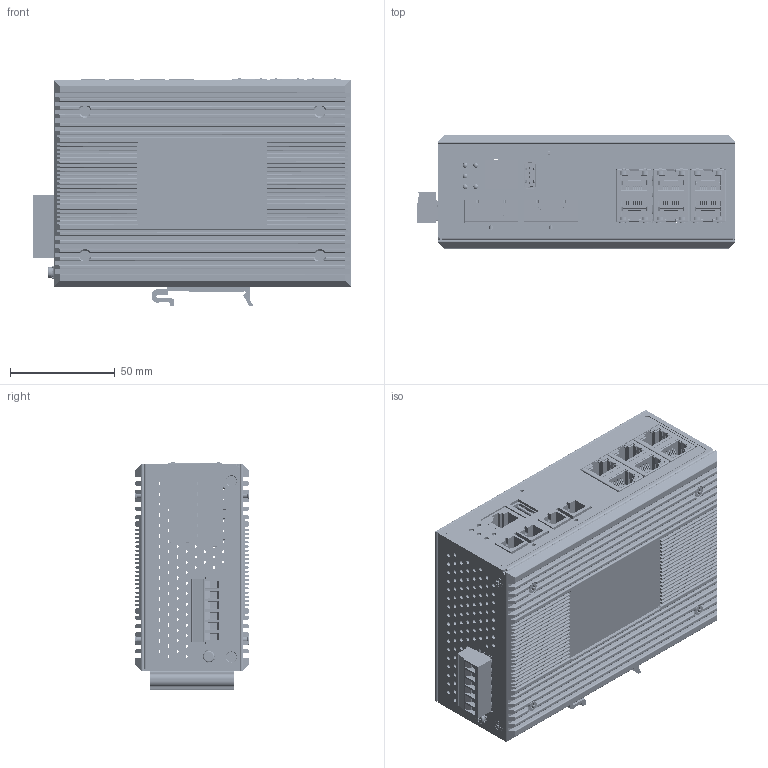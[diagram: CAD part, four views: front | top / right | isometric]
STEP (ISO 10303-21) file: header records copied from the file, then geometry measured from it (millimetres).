
FILE_DESCRIPTION((''),'2;1');
FILE_NAME('ET5-0802-M_ASM','2018-10-29T',('Chialu Chang'),(''),'PRO/ENGINEER BY PARAMETRIC TECHNOLOGY CORPORATION, 2009440','PRO/ENGINEER BY PARAMETRIC TECHNOLOGY CORPORATION, 2009440','');
FILE_SCHEMA(('CONFIG_CONTROL_DESIGN'));
Products named in the file (51): BOTTOM_CASE_PG5-0802-M_5; RM1-P160_1_ANY_1; RN1-P110_A_TYPE_RNX__ANY_1; RN1-P130_A_TYPE_RNX__1_ANY_1; ___J2-2961_1; ___J1-4212_1; RM1-C130-SW_3_2-___S_ANY_ASM_1_ASM; RU1-C130_RNX_1_ANY_1; RU1-C120_RNX_1_ANY_1; ___J2-361877_1; ___J1-362704_1; RM1-C131-SW_3_2-___S_ANY_ASM_1_ASM; RMX-P110_RM2_ANY_1; RM1-C120_SHORT____S_1_ANY_1; RM1-C120_LONG____S_1_ANY_1; _K_I__Q__ANY_1; RN2-S120_D_TYPE_RELAY-1G__ANY_1; RM1-C220____T_U_____P___A_1_ANY; RM1-C210____T_P___A_1_ANY_1; RM1-P110-LAST_1_ANY_1; RN2-S110_TOP_ONLY_ANY_1; 11264112222402_RN2H1X90-12PIN_A_ASM; EMSTBA_2_5-6-G-168220_1; EMSTBA_2_5-6-G-173270_ASM_1_ASM; 1899883_01_ASM_1_ASM; AVAGO_SC-FIBER_2; LED_GREEN_SMD_3; PG5-0802-SFP_SWITCH-BOARD_ASM_6_ASM; 3PCS_LED_ANY_1; 6100V80000_ANY_1; PRT0039_1; _T_W___TSC_-3B___W___ANY_1; ___L_TST-3B__BENDING_ANY_1; ___Y_TSB_-3B__WITH_PILOT___FIX_; ___L___Y_TSB_-3B__BENDING_ANY_A_ASM; _____MTSP-3B___W___ANY_1; ________W___ANY_1; 1188E_ANY_ASM_1_ASM; BOOST_PCB_PG5-0802-SFP_ASM_2_ASM; STENT_PG6-1202-10G-SFP_ANY_1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
Assembly tree (101 placements, depth 5):
  ET5-0802-M_ASM
    BOTTOM_CASE_PG5-0802-M_5
    PG5-0802-SFP_SWITCH-BOARD_ASM_6_ASM
      11264112222402_RN2H1X90-12PIN_A_ASM  x3
        RM1-P160_1_ANY_1
        RN1-P110_A_TYPE_RNX__ANY_1
        RN1-P130_A_TYPE_RNX__1_ANY_1
        RM1-C130-SW_3_2-___S_ANY_ASM_1_ASM
          ___J2-2961_1
          ___J1-4212_1
        RU1-C130_RNX_1_ANY_1
        RU1-C120_RNX_1_ANY_1
        RM1-C131-SW_3_2-___S_ANY_ASM_1_ASM
          ___J2-361877_1
          ___J1-362704_1
        RMX-P110_RM2_ANY_1
        RM1-C120_SHORT____S_1_ANY_1
        RM1-C120_LONG____S_1_ANY_1
        _K_I__Q__ANY_1
        RN2-S120_D_TYPE_RELAY-1G__ANY_1
        RM1-C220____T_U_____P___A_1_ANY
        RM1-C210____T_P___A_1_ANY_1
        RM1-P110-LAST_1_ANY_1
        RN2-S110_TOP_ONLY_ANY_1
      1899883_01_ASM_1_ASM
        EMSTBA_2_5-6-G-173270_ASM_1_ASM
          EMSTBA_2_5-6-G-168220_1
      AVAGO_SC-FIBER_2  x2
      LED_GREEN_SMD_3  x2
    BOOST_PCB_PG5-0802-SFP_ASM_2_ASM
      3PCS_LED_ANY_1  x2
      6100V80000_ANY_1
      PRT0039_1
      1188E_ANY_ASM_1_ASM
        _T_W___TSC_-3B___W___ANY_1
        ___L___Y_TSB_-3B__BENDING_ANY_A_ASM
          ___L_TST-3B__BENDING_ANY_1
          ___Y_TSB_-3B__WITH_PILOT___FIX_
        _____MTSP-3B___W___ANY_1
        ________W___ANY_1
    STENT_PG6-1202-10G-SFP_ANY_1
    PG5-1202-SFP_TOP-CASE_1
    LEONTON_FIN_BOTTOM_PG6-1202-10G
    LEONTON_FIN_TOP_PG6-1202-10G-SF
    M3_SCREW_FOR_GRN_1604_ANY_1
    SCREW_M3X4_F_1  x18
    DIN_RAIL_40_PG6-1202-10G-SFP_AN
    1754520_03_ASM_1_ASM
      MSTB_2_5-6-ST-133100_ASM_1_ASM
        MSTB_2_5-6-ST-129030_1
    MYLAR_PG5-1202-SFP_4
Bounding box: 151.91 x 54 x 108.46 mm (x, y, z)
Volume: 169073.1 mm3; surface area: 256838.1 mm2
Topology: 199 solids, 202 shells, 16016 faces, 44354 edges, 28675 vertices
Faces by surface type: plane 11534, cylinder 3577, torus 332, bspline 180, sphere 172, cone 167, revolution 48, extrusion 6
Entity records: 229646 total; most frequent: CARTESIAN_POINT 49358, ORIENTED_EDGE 38008, DIRECTION 36438, EDGE_CURVE 19022, VECTOR 13758, LINE 13752, VERTEX_POINT 12326, AXIS2_PLACEMENT_3D 11332
